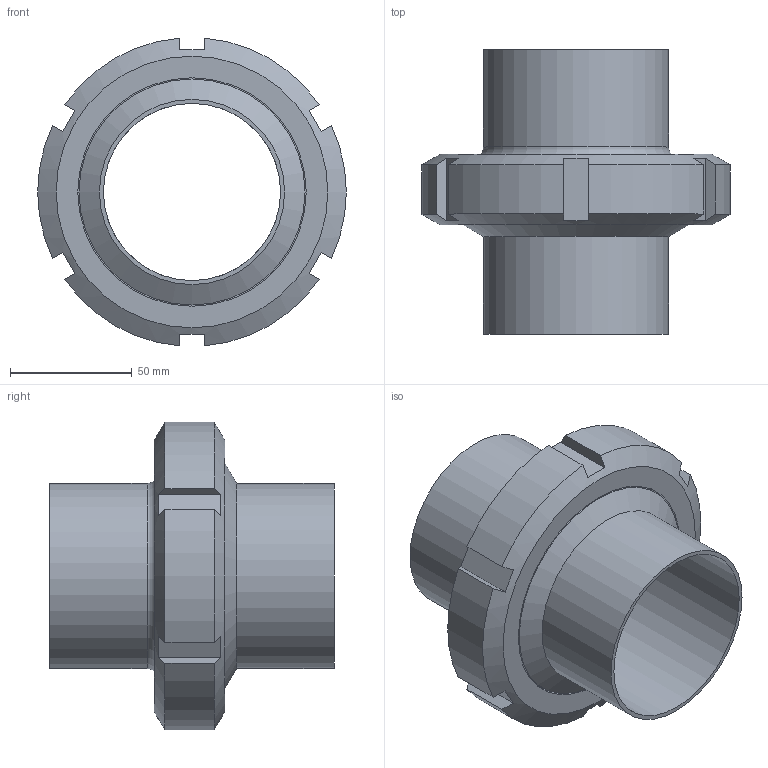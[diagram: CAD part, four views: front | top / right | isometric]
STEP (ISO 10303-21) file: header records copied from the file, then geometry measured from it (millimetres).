
FILE_DESCRIPTION(/* description */ ('Aseptik_Rohrverbindung_DIN 11864-1-A_76,2x1,65_L117'),/* implementation_level */ '2;1');
FILE_NAME(/* name */ 'L:\Normteile\N0024 - Rohrverbindungen\N0024_002 - DIN11864\N0024_002_001 - geschraubt\N0024_002_001\Step Marketing\DIN11864-1-A_76,2x1,65_L117.stp',/* time_stamp */ '2021-08-31T10:30:28+02:00',/* author */ ('Csasse'),/* organization */ ('Dockweiler AG'),/* preprocessor_version */ 'ST-DEVELOPER v18',/* originating_system */ 'Autodesk Inventor 2020',/* authorisation */ '');
FILE_SCHEMA (('AUTOMOTIVE_DESIGN { 1 0 10303 214 3 1 1 }'));
Length unit declared in the file: millimetre
Products named in the file (5): N0024_002_001_55; N0003_007_001_27; N0003_007_002_27; N0005_005_002_001_28; N0009_009_19
Assembly tree (4 placements, depth 2):
  N0024_002_001_55
    N0003_007_001_27
    N0003_007_002_27
    N0005_005_002_001_28
    N0009_009_19
Bounding box: 127 x 117 x 126.61 mm (x, y, z)
Volume: 278441.8 mm3; surface area: 112331.6 mm2
Topology: 4 solids, 4 shells, 68 faces, 200 edges, 144 vertices
Faces by surface type: plane 30, cylinder 16, torus 12, cone 10
Full cylindrical faces by diameter (mm): 72.9 x2, 76.2 x2, 93 x1, 94 x1, 98.9 x1, 99 x1, 103.65 x1, 110.635 x1
Entity records: 2600 total; most frequent: CARTESIAN_POINT 497, DIRECTION 434, ORIENTED_EDGE 400, EDGE_CURVE 200, AXIS2_PLACEMENT_3D 195, VERTEX_POINT 144, CIRCLE 118, EDGE_LOOP 80
